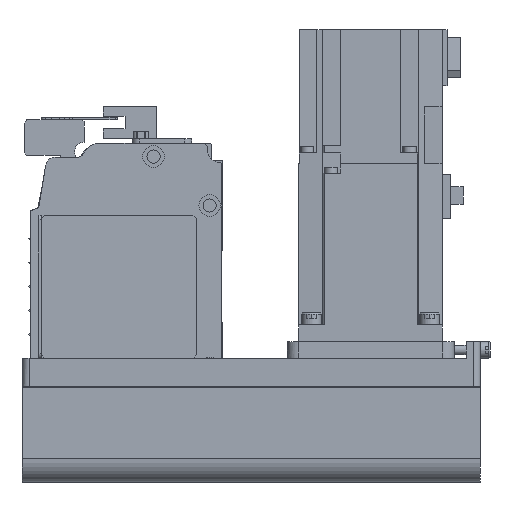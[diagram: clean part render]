
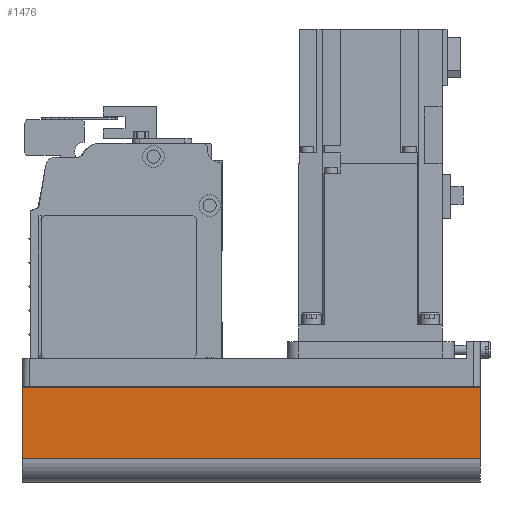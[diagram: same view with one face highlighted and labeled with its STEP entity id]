
A CAD part, left-side view. The second image highlights one B-rep face of the part: STEP entity #1476.
In plain terms, the highlighted planar face has unit normal (-1, 0, 0) as drawn and (0, 1, 0) by its records, which use the part's own axes.
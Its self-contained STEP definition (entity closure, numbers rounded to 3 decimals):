
#1476 = ADVANCED_FACE( '', ( #3325 ), #3326, .T. );
#3325 = FACE_OUTER_BOUND( '', #5645, .T. );
#3326 = PLANE( '', #5646 );
#5645 = EDGE_LOOP( '', ( #9668, #9669, #9670, #9671 ) );
#5646 = AXIS2_PLACEMENT_3D( '', #9672, #9673, #9674 );
#9668 = ORIENTED_EDGE( '', *, *, #13427, .F. );
#9669 = ORIENTED_EDGE( '', *, *, #14755, .F. );
#9670 = ORIENTED_EDGE( '', *, *, #14756, .T. );
#9671 = ORIENTED_EDGE( '', *, *, #14757, .T. );
#9672 = CARTESIAN_POINT( '', ( -192., 40., -42. ) );
#9673 = DIRECTION( '', ( 0., 1., 0. ) );
#9674 = DIRECTION( '', ( 0., 0., 1. ) );
#13427 = EDGE_CURVE( '', #16005, #16006, #16007, .T. );
#14755 = EDGE_CURVE( '', #18158, #16005, #18159, .T. );
#14756 = EDGE_CURVE( '', #18158, #18160, #18161, .T. );
#14757 = EDGE_CURVE( '', #18160, #16006, #18162, .T. );
#16005 = VERTEX_POINT( '', #19723 );
#16006 = VERTEX_POINT( '', #19724 );
#16007 = LINE( '', #19725, #19726 );
#18158 = VERTEX_POINT( '', #22648 );
#18159 = LINE( '', #22649, #22650 );
#18160 = VERTEX_POINT( '', #22651 );
#18161 = LINE( '', #22652, #22653 );
#18162 = LINE( '', #22654, #22655 );
#19723 = CARTESIAN_POINT( '', ( 0., 40., -42. ) );
#19724 = CARTESIAN_POINT( '', ( 0., 40., -12.1 ) );
#19725 = CARTESIAN_POINT( '', ( 0., 40., -42. ) );
#19726 = VECTOR( '', #24365, 1000. );
#22648 = CARTESIAN_POINT( '', ( -192., 40., -42. ) );
#22649 = CARTESIAN_POINT( '', ( -192., 40., -42. ) );
#22650 = VECTOR( '', #25974, 1000. );
#22651 = CARTESIAN_POINT( '', ( -192., 40., -12.1 ) );
#22652 = CARTESIAN_POINT( '', ( -192., 40., -42. ) );
#22653 = VECTOR( '', #25975, 1000. );
#22654 = CARTESIAN_POINT( '', ( -192., 40., -12.1 ) );
#22655 = VECTOR( '', #25976, 1000. );
#24365 = DIRECTION( '', ( 0., 0., 1. ) );
#25974 = DIRECTION( '', ( 1., 0., 0. ) );
#25975 = DIRECTION( '', ( 0., 0., 1. ) );
#25976 = DIRECTION( '', ( 1., 0., 0. ) );
